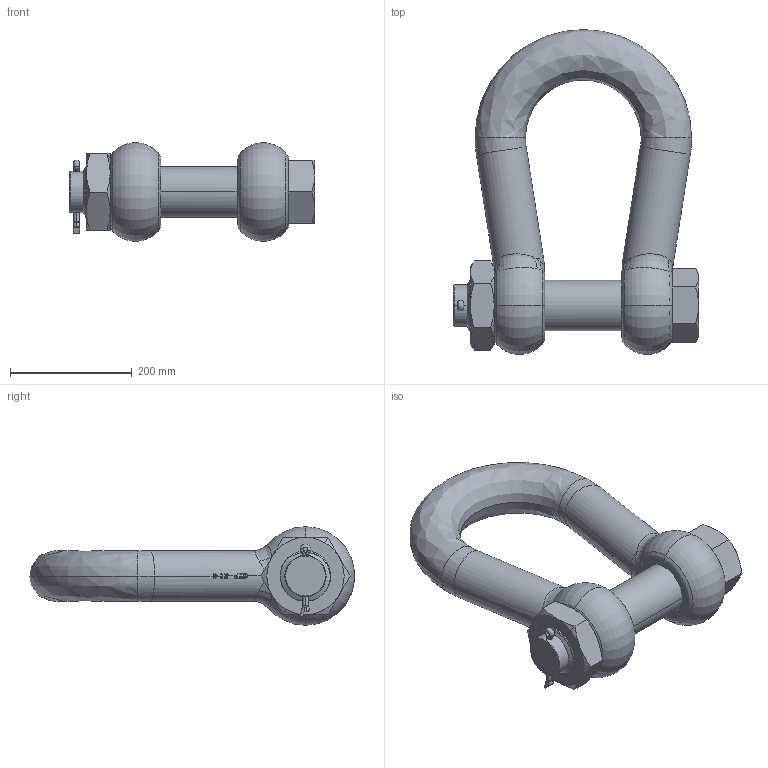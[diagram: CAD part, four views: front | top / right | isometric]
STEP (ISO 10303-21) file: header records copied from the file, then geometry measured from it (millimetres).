
FILE_DESCRIPTION (( 'STEP AP203' ), '1' );
FILE_NAME ('SUGHMB83.STEP', '2009-08-26T14:19:32', ( '.' ), ( '.' ), 'SwSTEP 2.0', 'SolidWorks 2009', '' );
FILE_SCHEMA (( 'CONFIG_CONTROL_DESIGN' ));
Length unit declared in the file: millimetre
Products named in the file (5): SUGHMB83; 120; 120_1; 120_2; 120_3
Assembly tree (4 placements, depth 2):
  SUGHMB83
    120_1
    120_3
    120_2
    120
Bounding box: 403 x 533.9 x 162 mm (x, y, z)
Volume: 9108097.7 mm3; surface area: 554836.6 mm2
Topology: 4 solids, 4 shells, 855 faces, 2369 edges, 1542 vertices
Faces by surface type: bspline 356, plane 333, cylinder 127, cone 28, torus 11
Entity records: 44822 total; most frequent: CARTESIAN_POINT 25916, ORIENTED_EDGE 4722, DIRECTION 2432, EDGE_CURVE 2361, VERTEX_POINT 1542, VECTOR 1114, LINE 1114, EDGE_LOOP 891
